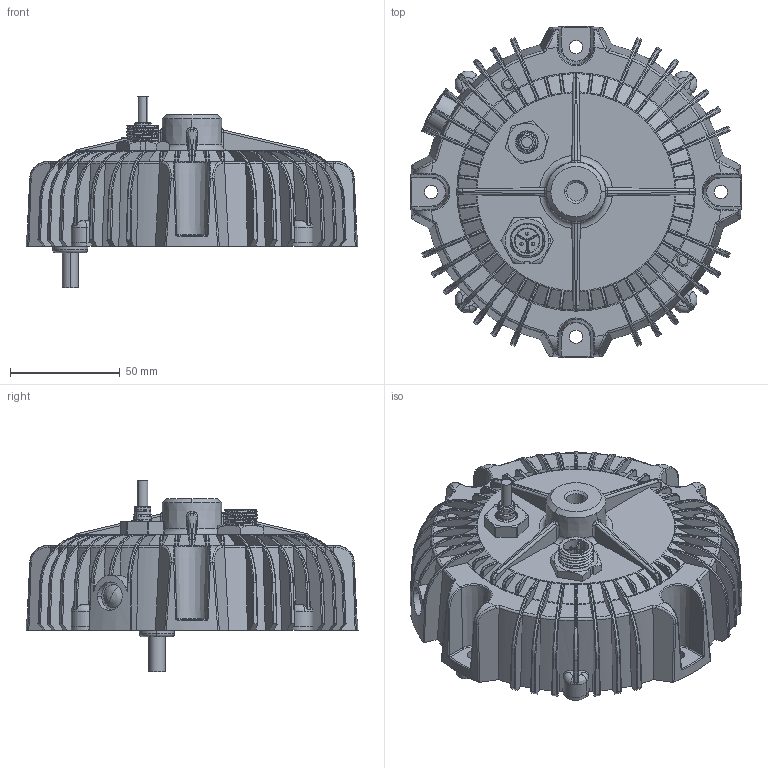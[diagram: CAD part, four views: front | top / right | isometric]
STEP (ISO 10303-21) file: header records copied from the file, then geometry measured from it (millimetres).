
FILE_DESCRIPTION(('Creo Elements/Direct Modeling STEP Export'),'2;1');
FILE_NAME('XBG-160-C.stp','2019-03-20T16:59:47',(''),(''),'PTC Creo Elements/Direct Modeling STEP processor for AP214 (Solid Model)','PTC Creo Elements/Direct Modeling 19.0 09-May-2014 (C) Parametric Technology GmbH','');
FILE_SCHEMA(('AUTOMOTIVE_DESIGN { 1 0 10303 214 1 1 1 1 }'));
Length unit declared in the file: millimetre
Products named in the file (17): base; TOP; OP; hxt; OP-1; HSG_32.PRT; PIN_10.PRT; PRT0001_1.PRT; RING_3.PRT; COVER_13.PRT; 3P_ASM_20.ASM; IP; HY-030-1901-1___.prt; HY-030-1901-2___SR.prt; DIMM; VRsai; case
Assembly tree (18 placements, depth 4):
  case
    VRsai
    DIMM
      HY-030-1901-2___SR.prt
      HY-030-1901-1___.prt
    IP
      3P_ASM_20.ASM
        COVER_13.PRT
        RING_3.PRT
        PRT0001_1.PRT
        PIN_10.PRT  x3
        HSG_32.PRT
    OP-1
      hxt
      OP
    TOP
    base
Bounding box: 151.3 x 151.3 x 87.2 mm (x, y, z)
Volume: 143720.2 mm3; surface area: 129211.8 mm2
Topology: 14 solids, 14 shells, 1855 faces, 4858 edges, 2996 vertices
Faces by surface type: cylinder 456, bspline 411, plane 400, torus 321, cone 211, sphere 54, revolution 2
Entity records: 126709 total; most frequent: CARTESIAN_POINT 86633, ORIENTED_EDGE 9436, DIRECTION 6715, EDGE_CURVE 4718, VERTEX_POINT 2952, AXIS2_PLACEMENT_3D 2772, EDGE_LOOP 1908, FACE_OUTER_BOUND 1825
